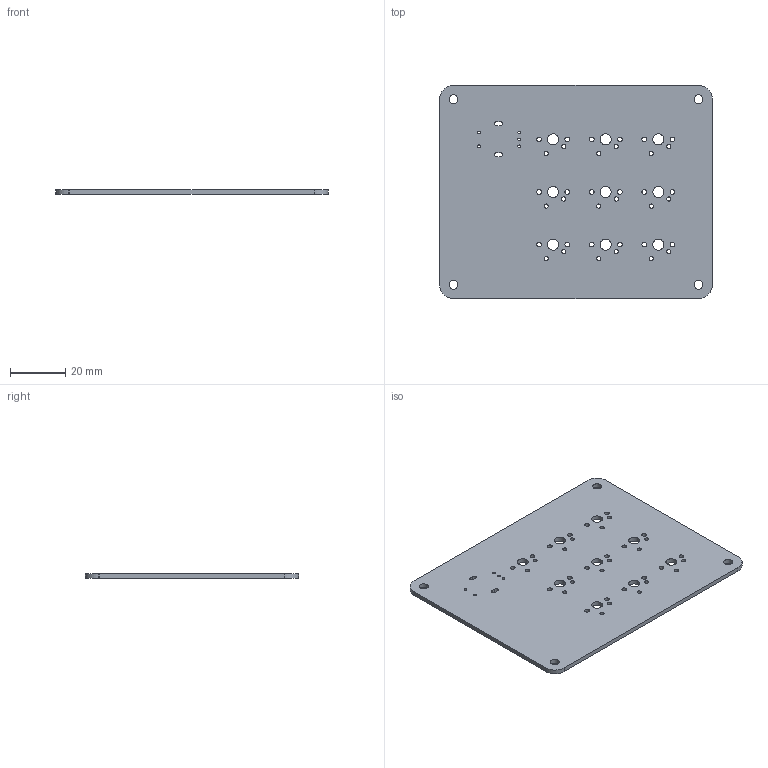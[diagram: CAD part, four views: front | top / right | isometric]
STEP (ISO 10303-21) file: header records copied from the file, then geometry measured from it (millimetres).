
FILE_DESCRIPTION(('KiCad electronic assembly'),'2;1');
FILE_NAME('macropad.step','2025-02-04T17:49:27',('Pcbnew'),('Kicad'), 'Open CASCADE STEP processor 7.8','KiCad to STEP converter','Unknown' );
FILE_SCHEMA(('AUTOMOTIVE_DESIGN { 1 0 10303 214 1 1 1 1 }'));
Length unit declared in the file: millimetre
Products named in the file (2): macropad 1; macropad_PCB
Assembly tree (1 placements, depth 2):
  macropad 1
    macropad_PCB
Bounding box: 98.5 x 77 x 1.6 mm (x, y, z)
Volume: 11734.1 mm3; surface area: 15798.9 mm2
Topology: 1 solids, 1 shells, 76 faces, 222 edges, 148 vertices
Faces by surface type: cylinder 62, plane 14
Full cylindrical faces by diameter (mm): 1 x5, 1.5 x18, 1.7 x18, 3.2 x4, 4 x9
Entity records: 2851 total; most frequent: DIRECTION 502, CARTESIAN_POINT 448, ORIENTED_EDGE 444, EDGE_CURVE 222, AXIS2_PLACEMENT_3D 202, FACE_BOUND 188, EDGE_LOOP 188, VERTEX_POINT 148
